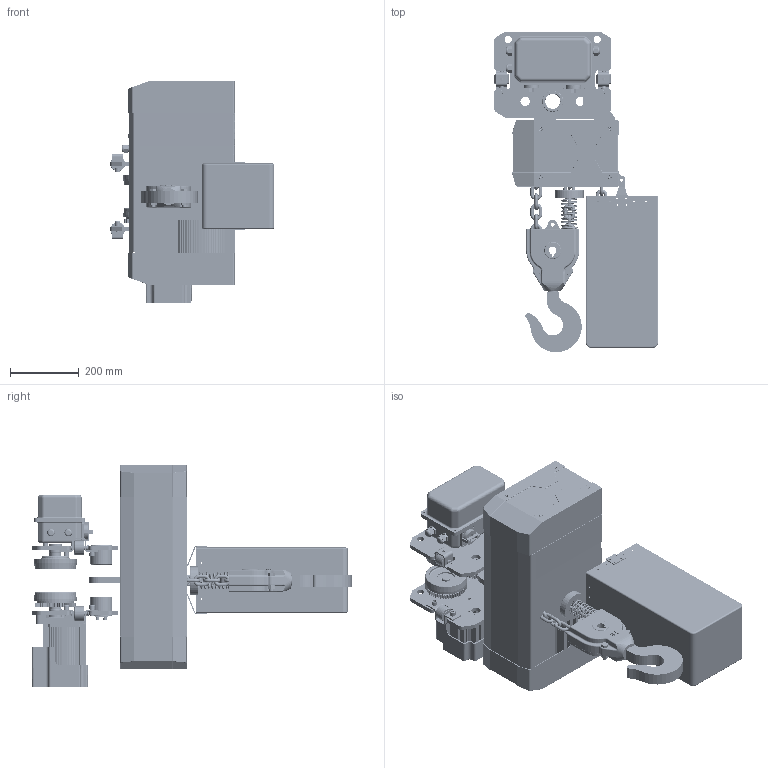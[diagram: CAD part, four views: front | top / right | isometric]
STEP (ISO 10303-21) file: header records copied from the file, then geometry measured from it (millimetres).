
FILE_DESCRIPTION(/* description */ (''),/* implementation_level */ '2;1');
FILE_NAME(/* name */ 'YJ 03-02 运行式.stp',/* time_stamp */ '2026-06-12T13:26:13+08:00',/* author */ (''),/* organization */ (''),/* preprocessor_version */ 'ST-DEVELOPER v16.7',/* originating_system */ 'SIEMENS PLM Software NX 12.0',/* authorisation */ '');
FILE_SCHEMA (('AP203_CONFIGURATION_CONTROLLED_3D_DESIGN_OF_MECHANICAL_PARTS_AND_ASSEMBLIES_MIM_LF { 1 0 10303 403 2 1 2}'));
Products named in the file (1): AFE04DC1Dhxdq
Bounding box: 476.31 x 929.32 x 645.3 mm (x, y, z)
Volume: 40963826.5 mm3; surface area: 3920018.9 mm2
Topology: 32 solids, 49 shells, 5926 faces, 15301 edges, 9379 vertices
Faces by surface type: plane 2213, cylinder 1861, extrusion 724, torus 454, cone 288, bspline 287, sphere 99
Full cylindrical faces by diameter (mm): 5 x4, 5.326 x2, 5.5 x32, 5.795 x10, 6 x5, 6.3 x4, 6.4 x8, 6.5 x2, 6.6 x8, 6.8 x4, 7.46 x2, 8.5 x4, 8.8 x4, 9 x2, 9.045 x2, 9.732 x20, 10 x14, 10.3 x9, 10.5 x4, 10.841 x1, 10.9 x4, 11.2 x4, 11.701 x4, 12.4 x2, 16 x16, 16.3 x4, 19.4 x3, 20 x6, 21 x4, 21.6 x3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
Entity records: 201115 total; most frequent: CARTESIAN_POINT 63311, ORIENTED_EDGE 29054, DIRECTION 26597, EDGE_CURVE 14527, VERTEX_POINT 9220, AXIS2_PLACEMENT_3D 9184, VECTOR 8229, LINE 7505
